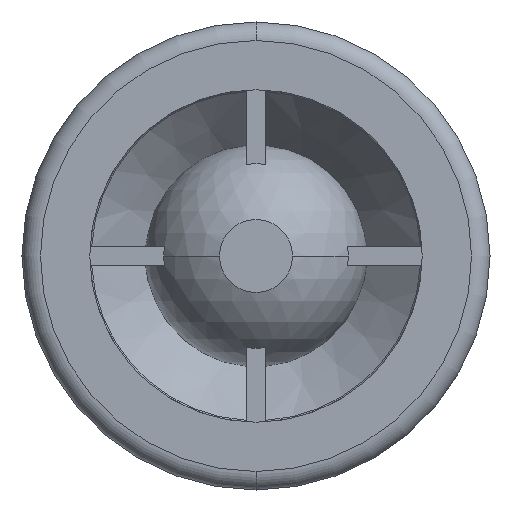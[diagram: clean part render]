
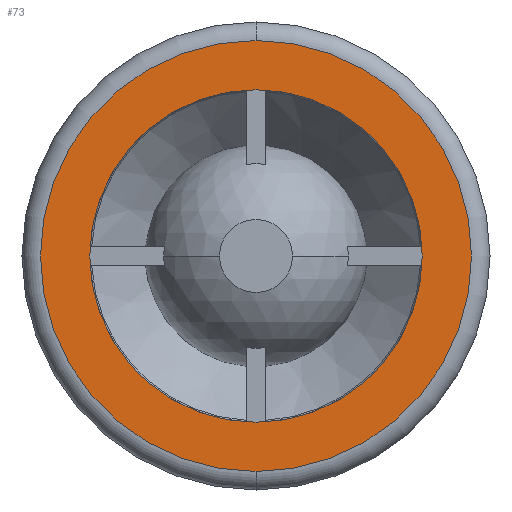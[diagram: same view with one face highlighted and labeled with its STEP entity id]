
A CAD part, front view. The second image highlights one B-rep face of the part: STEP entity #73.
In plain terms, the highlighted planar face has unit normal (0, -1, 0).
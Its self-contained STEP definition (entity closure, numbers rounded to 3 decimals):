
#49 = EDGE_LOOP ( 'NONE', ( #72, #71 ) ) ;
#66 = ORIENTED_EDGE ( 'NONE', *, *, #293, .F. ) ;
#67 = ORIENTED_EDGE ( 'NONE', *, *, #2631, .F. ) ;
#68 = EDGE_LOOP ( 'NONE', ( #67, #66 ) ) ;
#71 = ORIENTED_EDGE ( 'NONE', *, *, #346, .T. ) ;
#72 = ORIENTED_EDGE ( 'NONE', *, *, #74, .T. ) ;
#73 = ADVANCED_FACE ( 'NONE', ( #646, #642 ), #641, .F. ) ;
#74 = EDGE_CURVE ( 'NONE', #343, #353, #634, .T. ) ;
#268 = VERTEX_POINT ( 'NONE', #973 ) ;
#293 = EDGE_CURVE ( 'NONE', #268, #294, #988, .T. ) ;
#294 = VERTEX_POINT ( 'NONE', #983 ) ;
#343 = VERTEX_POINT ( 'NONE', #1133 ) ;
#346 = EDGE_CURVE ( 'NONE', #353, #343, #1126, .T. ) ;
#353 = VERTEX_POINT ( 'NONE', #1116 ) ;
#631 = DIRECTION ( 'NONE',  ( 0., 0., 1. ) ) ;
#632 = DIRECTION ( 'NONE',  ( 0., -1., 0. ) ) ;
#633 = AXIS2_PLACEMENT_3D ( 'NONE', #639, #632, #631 ) ;
#634 = CIRCLE ( 'NONE', #633, 17.5 ) ;
#636 = DIRECTION ( 'NONE',  ( 0., 0., 1. ) ) ;
#637 = DIRECTION ( 'NONE',  ( 0., 1., 0. ) ) ;
#638 = CARTESIAN_POINT ( 'NONE',  ( -13.5, 0., 0. ) ) ;
#639 = CARTESIAN_POINT ( 'NONE',  ( 0., 0., 0. ) ) ;
#640 = AXIS2_PLACEMENT_3D ( 'NONE', #638, #637, #636 ) ;
#641 = PLANE ( 'NONE',  #640 ) ;
#642 = FACE_BOUND ( 'NONE', #68, .T. ) ;
#646 = FACE_OUTER_BOUND ( 'NONE', #49, .T. ) ;
#973 = CARTESIAN_POINT ( 'NONE',  ( 0., 0., 13.5 ) ) ;
#983 = CARTESIAN_POINT ( 'NONE',  ( 0., 0., -13.5 ) ) ;
#984 = DIRECTION ( 'NONE',  ( 0., 0., -1. ) ) ;
#985 = DIRECTION ( 'NONE',  ( 0., -1., 0. ) ) ;
#986 = CARTESIAN_POINT ( 'NONE',  ( 0., 0., 0. ) ) ;
#987 = AXIS2_PLACEMENT_3D ( 'NONE', #986, #985, #984 ) ;
#988 = CIRCLE ( 'NONE', #987, 13.5 ) ;
#1116 = CARTESIAN_POINT ( 'NONE',  ( 0., 0., -17.5 ) ) ;
#1123 = DIRECTION ( 'NONE',  ( 0., 0., 1. ) ) ;
#1124 = DIRECTION ( 'NONE',  ( 0., -1., 0. ) ) ;
#1125 = AXIS2_PLACEMENT_3D ( 'NONE', #1132, #1124, #1123 ) ;
#1126 = CIRCLE ( 'NONE', #1125, 17.5 ) ;
#1132 = CARTESIAN_POINT ( 'NONE',  ( 0., 0., 0. ) ) ;
#1133 = CARTESIAN_POINT ( 'NONE',  ( 0., 0., 17.5 ) ) ;
#1807 = DIRECTION ( 'NONE',  ( 0., 0., -1. ) ) ;
#1808 = DIRECTION ( 'NONE',  ( 0., -1., 0. ) ) ;
#1809 = CARTESIAN_POINT ( 'NONE',  ( 0., 0., 0. ) ) ;
#1810 = AXIS2_PLACEMENT_3D ( 'NONE', #1809, #1808, #1807 ) ;
#1814 = CIRCLE ( 'NONE', #1810, 13.5 ) ;
#2631 = EDGE_CURVE ( 'NONE', #294, #268, #1814, .T. ) ;
